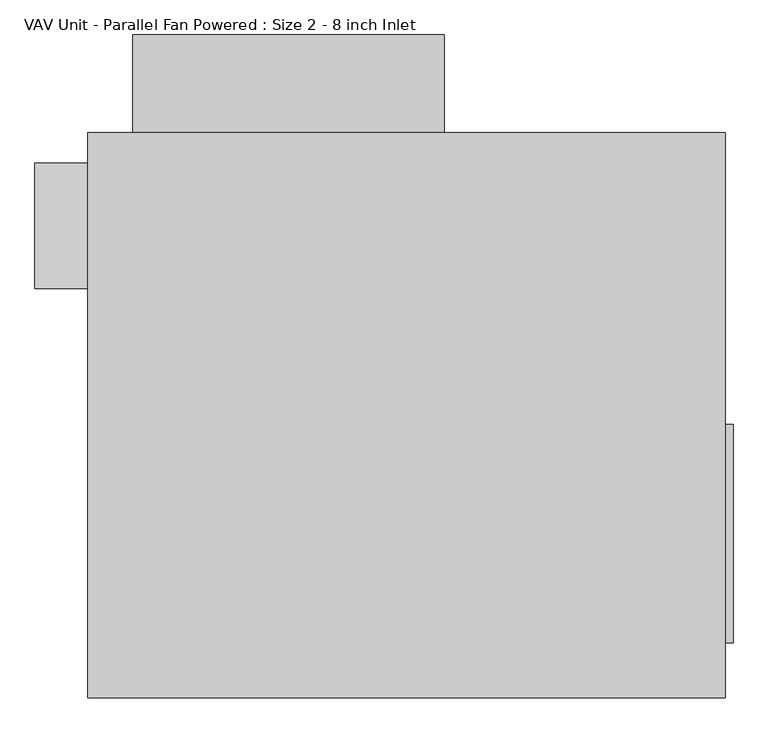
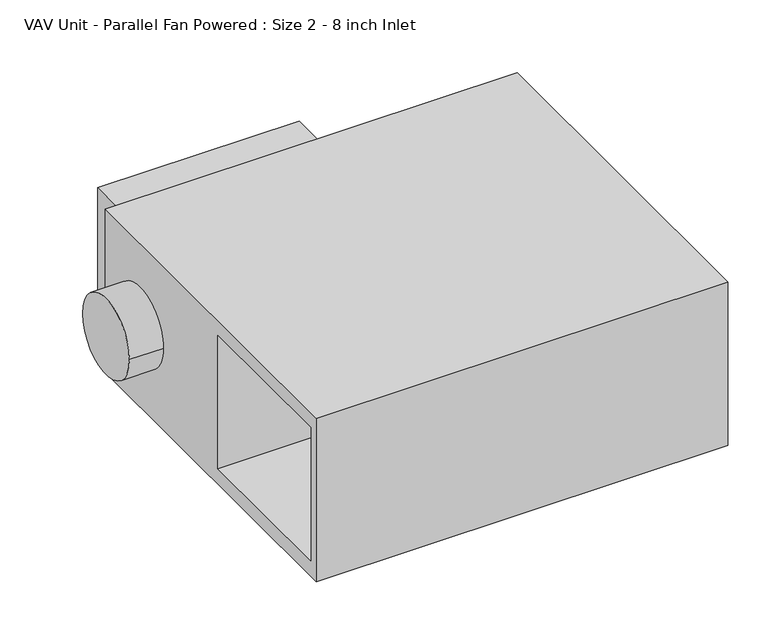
"""IFC4 building model written with IfcOpenShell, lengths in millimetres: proxy geometry, VAV Unit - Parallel Fan Powered : Size 2 - 8 inch Inlet."""

from ifc_helpers import new_model, si_unit, point, frame, frame_2d, origin, place, context, project, spatial, polyline, circle_curve, trimmed, segment, composite_curve, outline, extrude, faceted_brep, source, transform, mapped, element, save


def vav_unit_parallel_fan_powered_size_2_8_inch_inlet_d7904373(model_context):
    return source(origin(), model_context, "Body", "SolidModel", [
        extrude(outline(polyline([(532.0, -15.5), (532.0, -371.5), (519.1125, -371.5), (519.1125, -15.5), (532.0, -15.5)])), frame((0.0, 0.0, -139.5), z_axis=(0.0, 0.0, 1.0), x_axis=(1.0, 0.0, 0.0)), (0.0, 0.0, 1.0), 279.0),
        extrude(outline(polyline([(62.0, 460.5), (-446.0, 460.5), (-446.0, 619.5), (62.0, 619.5), (62.0, 460.5)])), frame((0.0, 0.0, -152.5), z_axis=(0.0, 0.0, 1.0), x_axis=(1.0, 0.0, 0.0)), (0.0, 0.0, 1.0), 305.0),
        extrude(outline(composite_curve([segment(trimmed(circle_curve(frame_2d((308.5, 0.0)), 102.0), [point((206.5, 0.0))], [point((410.5, 0.0))], False, "CARTESIAN"), True, "CONTINUOUS"), segment(trimmed(circle_curve(frame_2d((308.5, 0.0)), 102.0), [point((410.5, 0.0))], [point((206.5, 0.0))], False, "CARTESIAN"), True, "CONTINUOUS")], self_intersect=False)), frame((-605.0, 0.0, 0.0), z_axis=(1.0, 0.0, 0.0), x_axis=(0.0, 1.0, 0.0)), (0.0, 0.0, 1.0), 86.0),
        faceted_brep([(519.0, 460.5, 218.0), (-519.0, 460.5, 218.0), (-519.0, -460.5, 218.0), (519.0, -460.5, 218.0), (519.0, 460.5, -218.0), (519.0, -460.5, -218.0), (-519.0, -460.5, -218.0), (-519.0, 460.5, -218.0), (-519.0, -435.5, 178.0), (-519.0, -435.5, -178.0), (-519.0, -29.5, -178.0), (-519.0, -29.5, 178.0), (0.0, -435.5, 178.0), (0.0, -29.5, 178.0), (0.0, -29.5, -178.0), (0.0, -435.5, -178.0)], [[[0, 1, 2, 3]], [[4, 5, 6, 7]], [[1, 0, 4, 7]], [[2, 1, 7, 6], [8, 9, 10, 11]], [[3, 2, 6, 5]], [[0, 3, 5, 4]], [[12, 13, 14, 15]], [[12, 15, 9, 8]], [[15, 14, 10, 9]], [[14, 13, 11, 10]], [[13, 12, 8, 11]]]),
    ])


if __name__ == "__main__":
    model = new_model("IFC4")
    model_context = context("Model", 3, world=origin())
    ifc_project = project(units=[si_unit("LENGTHUNIT", "METRE", prefix="MILLI")], contexts=[model_context])
    site = spatial("IfcSite", under=ifc_project)
    building = spatial("IfcBuilding", under=site)
    placement = place(None, origin())
    vav_unit_parallel_fan_powered_size_2_8_inch_inlet_shape = vav_unit_parallel_fan_powered_size_2_8_inch_inlet_d7904373(model_context)
    element("IfcBuildingElementProxy", 1, Name="VAV Unit - Parallel Fan Powered : Size 2 - 8 inch Inlet", ObjectType="VAV Unit - Parallel Fan Powered : Size 2 - 8 inch Inlet", at=placement, inside=building, context=model_context, shape_type="MappedRepresentation", body=[
        mapped(vav_unit_parallel_fan_powered_size_2_8_inch_inlet_shape, transform((0.0, 0.0, 0.0), x_axis=(1.0, 0.0, 0.0), y_axis=(0.0, 1.0, 0.0), z_axis=(0.0, 0.0, 1.0))),
    ])
    save(model, "model.ifc")
